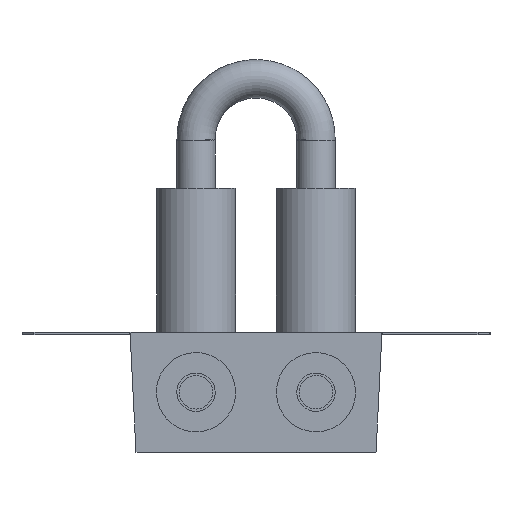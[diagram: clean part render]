
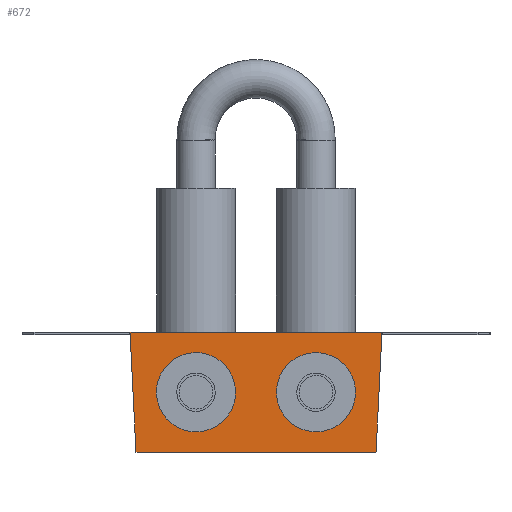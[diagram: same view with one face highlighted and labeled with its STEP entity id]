
A CAD part, front view. The second image highlights one B-rep face of the part: STEP entity #672.
In plain terms, the highlighted planar face has unit normal (0, -1, 0) as drawn and (0, 0, 1) by its records, which use the part's own axes.
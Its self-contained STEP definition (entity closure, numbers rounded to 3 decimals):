
#104=FACE_BOUND('',#221,.T.);
#105=FACE_BOUND('',#222,.T.);
#137=CIRCLE('',#852,8.);
#138=CIRCLE('',#853,8.);
#175=FACE_OUTER_BOUND('',#220,.T.);
#220=EDGE_LOOP('',(#508,#509,#510,#511));
#221=EDGE_LOOP('',(#512));
#222=EDGE_LOOP('',(#513));
#296=LINE('',#1193,#326);
#301=LINE('',#1203,#331);
#303=LINE('',#1207,#333);
#305=LINE('',#1210,#335);
#326=VECTOR('',#956,10.);
#331=VECTOR('',#965,10.);
#333=VECTOR('',#969,10.);
#335=VECTOR('',#973,10.);
#356=VERTEX_POINT('',#1190);
#357=VERTEX_POINT('',#1192);
#360=VERTEX_POINT('',#1202);
#361=VERTEX_POINT('',#1206);
#362=VERTEX_POINT('',#1211);
#363=VERTEX_POINT('',#1213);
#418=EDGE_CURVE('',#357,#356,#296,.T.);
#423=EDGE_CURVE('',#357,#360,#301,.T.);
#425=EDGE_CURVE('',#361,#360,#303,.T.);
#427=EDGE_CURVE('',#361,#356,#305,.T.);
#428=EDGE_CURVE('',#362,#362,#137,.T.);
#429=EDGE_CURVE('',#363,#363,#138,.T.);
#508=ORIENTED_EDGE('',*,*,#418,.T.);
#509=ORIENTED_EDGE('',*,*,#427,.F.);
#510=ORIENTED_EDGE('',*,*,#425,.T.);
#511=ORIENTED_EDGE('',*,*,#423,.F.);
#512=ORIENTED_EDGE('',*,*,#428,.T.);
#513=ORIENTED_EDGE('',*,*,#429,.T.);
#648=PLANE('',#851);
#672=ADVANCED_FACE('',(#175,#104,#105),#648,.T.);
#851=AXIS2_PLACEMENT_3D('',#1209,#971,#972);
#852=AXIS2_PLACEMENT_3D('',#1212,#974,#975);
#853=AXIS2_PLACEMENT_3D('',#1214,#976,#977);
#956=DIRECTION('',(-0.999,0.05,0.));
#965=DIRECTION('',(0.,-1.,0.));
#969=DIRECTION('',(0.999,0.05,0.));
#971=DIRECTION('center_axis',(0.,0.,1.));
#972=DIRECTION('ref_axis',(0.,-1.,0.));
#973=DIRECTION('',(0.,1.,0.));
#974=DIRECTION('center_axis',(0.,0.,-1.));
#975=DIRECTION('ref_axis',(-1.,0.,0.));
#976=DIRECTION('center_axis',(0.,0.,-1.));
#977=DIRECTION('ref_axis',(-1.,0.,0.));
#1190=CARTESIAN_POINT('',(0.,105.,0.));
#1192=CARTESIAN_POINT('',(50.,102.5,0.));
#1193=CARTESIAN_POINT('',(0.,105.,0.));
#1202=CARTESIAN_POINT('',(50.,2.5,0.));
#1203=CARTESIAN_POINT('',(50.,0.,0.));
#1206=CARTESIAN_POINT('',(0.,0.,0.));
#1207=CARTESIAN_POINT('',(2.618,0.131,0.));
#1209=CARTESIAN_POINT('Origin',(0.,105.,0.));
#1210=CARTESIAN_POINT('',(0.,0.,0.));
#1211=CARTESIAN_POINT('',(33.,77.5,0.));
#1212=CARTESIAN_POINT('Origin',(25.,77.5,0.));
#1213=CARTESIAN_POINT('',(33.,27.5,0.));
#1214=CARTESIAN_POINT('Origin',(25.,27.5,0.));
